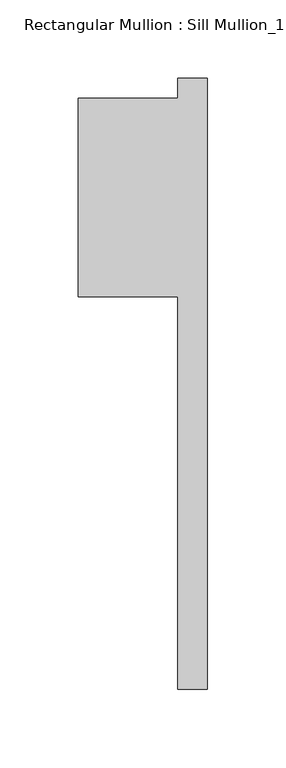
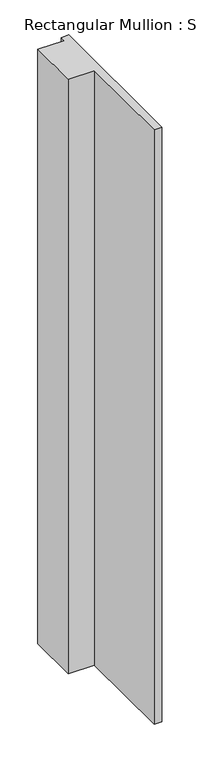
"""IFC4 building model written with IfcOpenShell, lengths in millimetres: member geometry."""

from ifc_helpers import new_model, si_unit, frame, origin, place, context, project, spatial, polyline, outline, extrude, source, transform, mapped, element, save


def member_f5048b56(model_context):
    return source(origin(), model_context, "Body", "SweptSolid", [
        extrude(outline(polyline([(-82.55, -50.8), (-82.55, 76.2), (-19.05, 76.2), (-19.05, 88.9), (0.0, 88.9), (0.0, -301.625), (-19.05, -301.625), (-19.05, -50.8), (-82.55, -50.8)])), frame((0.0, 0.0, -1525.27), z_axis=(0.0, 0.0, 1.0), x_axis=(1.0, 0.0, 0.0)), (0.0, 0.0, 1.0), 1525.27),
    ])


if __name__ == "__main__":
    model = new_model("IFC4")
    model_context = context("Model", 3, world=origin())
    ifc_project = project(units=[si_unit("LENGTHUNIT", "METRE", prefix="MILLI")], contexts=[model_context])
    site = spatial("IfcSite", under=ifc_project)
    building = spatial("IfcBuilding", under=site)
    placement = place(None, origin())
    member_shape = member_f5048b56(model_context)
    element("IfcMember", 1, ObjectType="Rectangular Mullion : Sill Mullion_15\" thick wall", at=placement, inside=building, context=model_context, shape_type="MappedRepresentation", body=[
        mapped(member_shape, transform((0.0, 0.0, 0.0), x_axis=(1.0, 0.0, 0.0), y_axis=(0.0, 1.0, 0.0), z_axis=(0.0, 0.0, 1.0))),
    ])
    save(model, "model.ifc")
